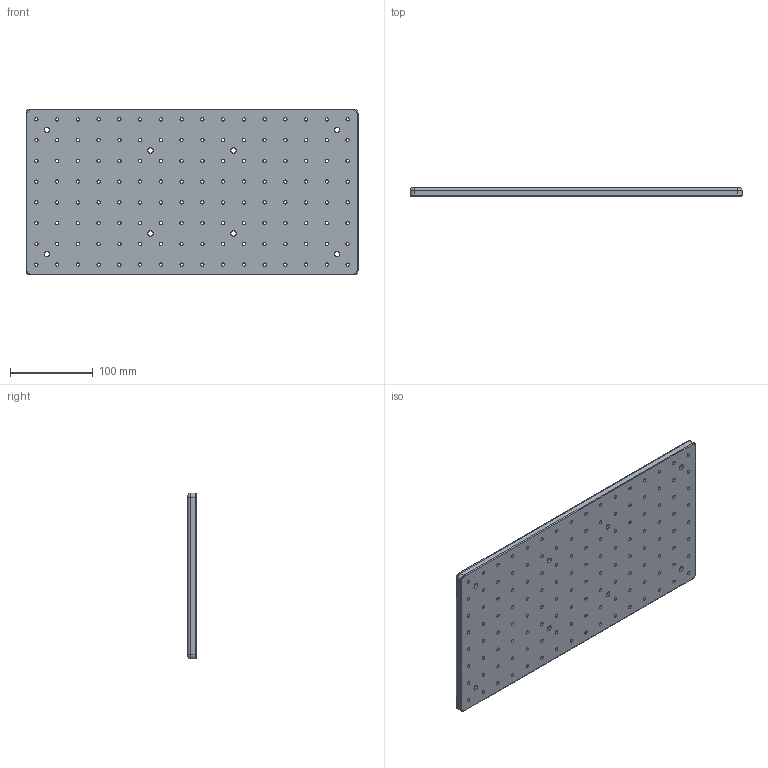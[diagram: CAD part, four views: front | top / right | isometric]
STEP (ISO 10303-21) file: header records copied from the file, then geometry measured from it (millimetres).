
FILE_DESCRIPTION (( 'STEP AP203' ), '1' );
FILE_NAME ('M-PNB-2040-10.step', '2017-01-10T01:12:27', ( '¦K¬P' ), ( '' ), 'SwSTEP 2.0', 'SolidWorks 2012', '' );
FILE_SCHEMA (( 'CONFIG_CONTROL_DESIGN' ));
Length unit declared in the file: millimetre
Products named in the file (1): M-PNB-2040-10
Bounding box: 400 x 10 x 200 mm (x, y, z)
Volume: 775330.7 mm3; surface area: 184515.8 mm2
Topology: 1 solids, 1 shells, 178 faces, 488 edges, 320 vertices
Faces by surface type: cylinder 156, plane 14, torus 8
Full cylindrical faces by diameter (mm): 4 x128, 6.5 x8, 11 x8
Entity records: 5725 total; most frequent: DIRECTION 1022, CARTESIAN_POINT 843, ORIENTED_EDGE 688, EDGE_LOOP 602, AXIS2_PLACEMENT_3D 499, EDGE_CURVE 344, FACE_OUTER_BOUND 322, CIRCLE 320
